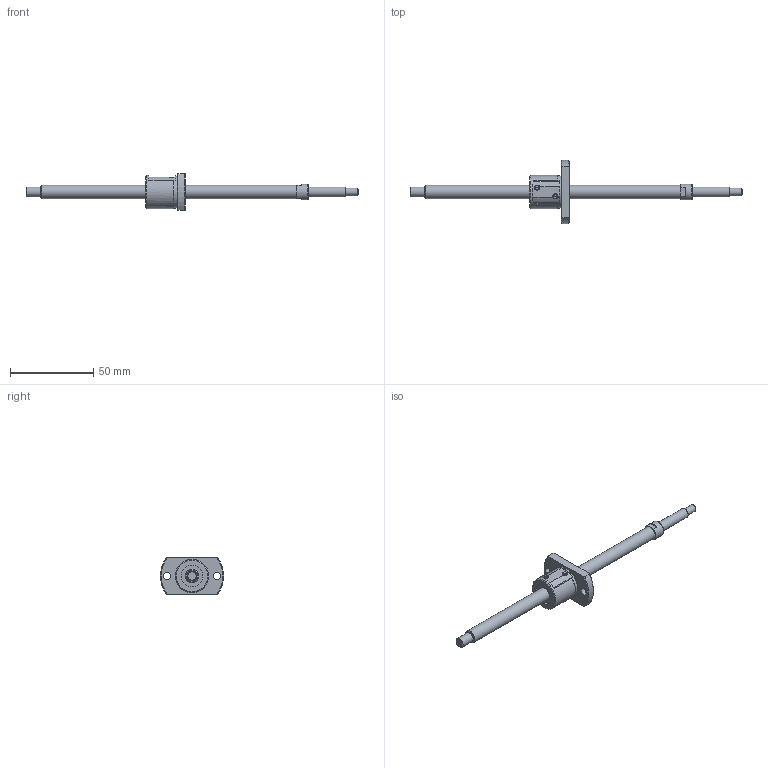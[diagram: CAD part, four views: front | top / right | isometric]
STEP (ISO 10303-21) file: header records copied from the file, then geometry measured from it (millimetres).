
FILE_DESCRIPTION(/* description */ ('STEP AP214'),/* implementation_level */ '2;1');
FILE_NAME(/* name */ 'SG0802-150R200C3C0X(63)',/* time_stamp */ '2026-07-21T16:45:54+02:00',/* author */ ('License CC BY-ND 4.0'),/* organization */ ('CADENAS'),/* preprocessor_version */ 'ST-DEVELOPER v20',/* originating_system */ 'PARTsolutions',/* authorisation */ ' ');
FILE_SCHEMA (('AUTOMOTIVE_DESIGN {1 0 10303 214 3 1 1}'));
Length unit declared in the file: millimetre
Products named in the file (3): SG0802-150R200C3C0X(63); SG0802-150R200C3C_shaft; SG0802_nut
Assembly tree (2 placements, depth 2):
  SG0802-150R200C3C0X(63)
    SG0802-150R200C3C_shaft
    SG0802_nut
Bounding box: 200 x 38 x 22 mm (x, y, z)
Volume: 17399.1 mm3; surface area: 8813.3 mm2
Topology: 2 solids, 2 shells, 75 faces, 181 edges, 118 vertices
Faces by surface type: plane 36, cylinder 24, cone 14, torus 1
Full cylindrical faces by diameter (mm): 4.5 x3, 6 x2, 8 x2, 9.5 x1, 13 x2, 19.7 x1, 20 x1
Entity records: 2117 total; most frequent: CARTESIAN_POINT 396, DIRECTION 358, ORIENTED_EDGE 298, EDGE_CURVE 149, AXIS2_PLACEMENT_3D 149, EDGE_LOOP 112, FACE_BOUND 112, VERTEX_POINT 109
